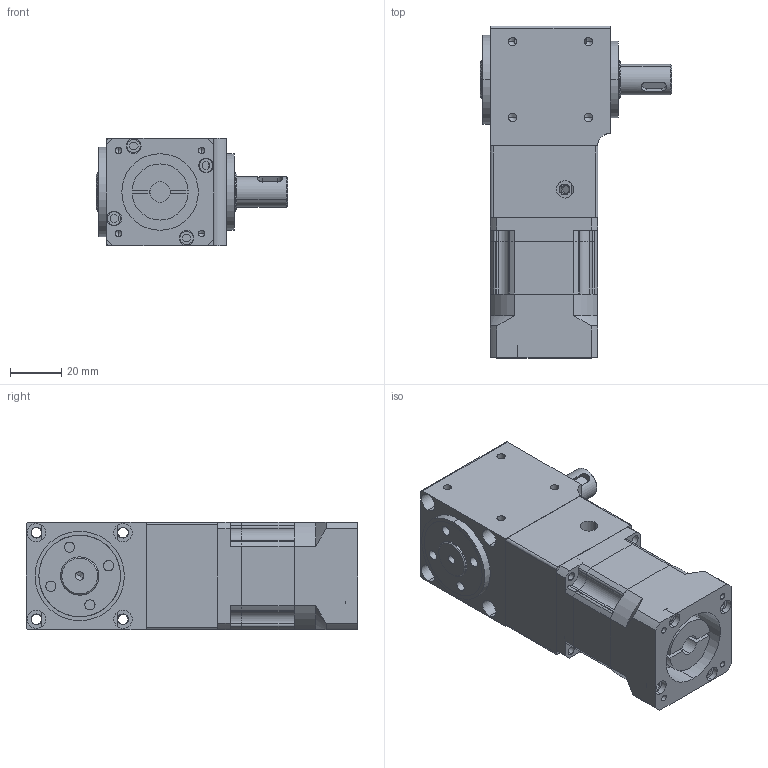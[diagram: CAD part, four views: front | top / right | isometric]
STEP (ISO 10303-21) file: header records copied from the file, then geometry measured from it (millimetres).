
FILE_DESCRIPTION (( 'STEP AP203' ), '1' );
FILE_NAME ('PVFD040-L2-8-30-45.STEP', '2025-06-13T06:43:26', ( 'Windows User' ), ( 'P R C' ), 'SwSTEP 2.0', 'SolidWorks 2016', '' );
FILE_SCHEMA (( 'CONFIG_CONTROL_DESIGN' ));
Length unit declared in the file: millimetre
Products named in the file (12): PVFD040-L2-8-30-45; 蹟譫; 蹟譫ㄗ2ㄘ; 標杶ㄗ1ㄘ; 綴楊擘ㄗ侂狟100Wㄘ; deep groove ball bearings gb_Rolling bearings 6001 GB 276-94; deep groove ball bearings gb_Rolling bearings 6002 GB 276-94; 褲极; deep groove ball bearings gb_Rolling bearings 61902 GB 276-94; 怀堤粣ㄗ等粣ㄘ; PVFD040-L2大级模型（8-24 30-2 4-M3-46）.; 输入轴
Assembly tree (11 placements, depth 2):
  PVFD040-L2-8-30-45
    褲极
    怀堤粣ㄗ等粣ㄘ
    输入轴
    蹟譫
    蹟譫ㄗ2ㄘ
    標杶ㄗ1ㄘ
    綴楊擘ㄗ侂狟100Wㄘ
    deep groove ball bearings gb_Rolling bearings 6001 GB 276-94
    deep groove ball bearings gb_Rolling bearings 6002 GB 276-94
    deep groove ball bearings gb_Rolling bearings 61902 GB 276-94
    PVFD040-L2大级模型（8-24 30-2 4-M3-46）.
Bounding box: 75 x 130 x 42 mm (x, y, z)
Volume: 192177 mm3; surface area: 80579.4 mm2
Topology: 18 solids, 18 shells, 1592 faces, 4527 edges, 2957 vertices
Faces by surface type: plane 679, bspline 446, cylinder 379, cone 84, torus 4
Entity records: 66802 total; most frequent: CARTESIAN_POINT 26775, ORIENTED_EDGE 8950, DIRECTION 6842, EDGE_CURVE 4475, VERTEX_POINT 2957, AXIS2_PLACEMENT_3D 2365, VECTOR 2112, LINE 2112
